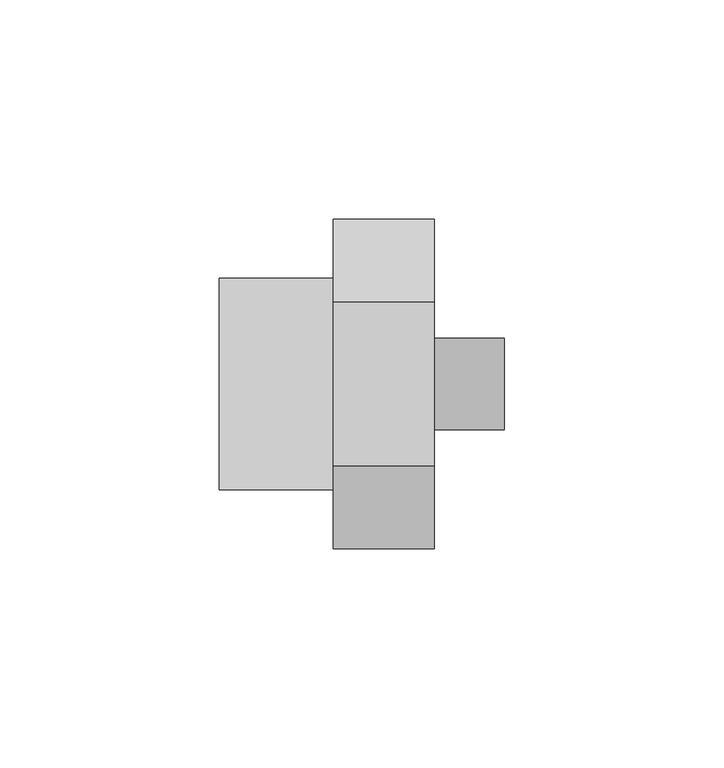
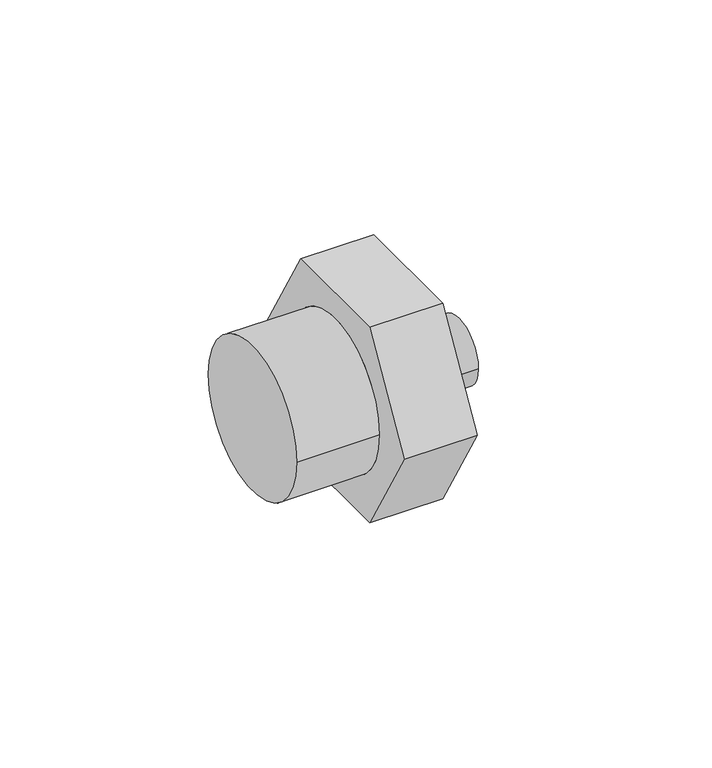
"""IFC4 building model written with IfcOpenShell, lengths in millimetres: pipe fitting geometry, 01011197 : Mamelons doubles réduction."""

from ifc_helpers import new_model, si_unit, frame, origin, place, context, project, spatial, circle_curve, source, transform, mapped, element, save
from ifc_brep_helpers import plane_surface, cylinder_surface, advanced_brep


def pipe_fitting_93043155(model_context):
    return source(origin(), model_context, "Body", "AdvancedBrep", [
        advanced_brep(
        [(49.0, -18.7638837, 32.5), (49.0, -37.5277675, 0.0), (49.0, -18.7638837, -32.5), (49.0, 18.7638837, -32.5), (49.0, 37.5277675, 0.0), (49.0, 18.7638837, 32.5), (49.0, -10.4775, 0.0), (49.0, 10.4775, 0.0), (26.0, -18.7638837, 32.5), (26.0, 18.7638837, 32.5), (26.0, 37.5277675, 0.0), (26.0, 18.7638837, -32.5), (26.0, -18.7638837, -32.5), (26.0, -37.5277675, 0.0), (26.0, 24.13, 0.0), (26.0, -24.13, 0.0), (65.0, -10.4775, 0.0), (65.0, 10.4775, 0.0), (0.0, 24.13, 0.0), (0.0, -24.13, 0.0)],
        [
            (0, 1),
            (1, 2),
            (2, 3),
            (3, 4),
            (4, 5),
            (5, 0),
            (6, 7, circle_curve(frame((49.0, 0.0, 0.0), z_axis=(-1.0, 0.0, 0.0), x_axis=(0.0, 1.0, 0.0)), 10.4775)),
            (7, 6, circle_curve(frame((49.0, 0.0, 0.0), z_axis=(-1.0, 0.0, 0.0), x_axis=(0.0, 1.0, 0.0)), 10.4775)),
            (8, 9),
            (9, 10),
            (10, 11),
            (11, 12),
            (12, 13),
            (13, 8),
            (14, 15, circle_curve(frame((26.0, 0.0, 0.0), z_axis=(1.0, 0.0, 0.0), x_axis=(0.0, -1.0, 0.0)), 24.13)),
            (15, 14, circle_curve(frame((26.0, 0.0, 0.0), z_axis=(1.0, 0.0, 0.0), x_axis=(0.0, -1.0, 0.0)), 24.13)),
            (0, 8),
            (13, 1),
            (12, 2),
            (11, 3),
            (10, 4),
            (9, 5),
            (16, 17, circle_curve(frame((65.0, 0.0, 0.0), z_axis=(1.0, 0.0, 0.0), x_axis=(0.0, 1.0, 0.0)), 10.4775)),
            (17, 16, circle_curve(frame((65.0, 0.0, 0.0), z_axis=(1.0, 0.0, 0.0), x_axis=(0.0, 1.0, 0.0)), 10.4775)),
            (17, 7),
            (6, 16),
            (18, 19, circle_curve(frame((0.0, 0.0, 0.0), z_axis=(-1.0, 0.0, 0.0), x_axis=(0.0, -1.0, 0.0)), 24.13)),
            (19, 18, circle_curve(frame((0.0, 0.0, 0.0), z_axis=(-1.0, 0.0, 0.0), x_axis=(0.0, -1.0, 0.0)), 24.13)),
            (19, 15),
            (14, 18),
        ],
        [
            plane_surface(frame((49.0, -18.7638837, 32.5), z_axis=(1.0000000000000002, 0.0, 0.0), x_axis=(0.0, -0.5000000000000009, -0.8660254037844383))),
            plane_surface(frame((26.0, -18.7638837, 32.5), z_axis=(-1.0000000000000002, 0.0, 0.0), x_axis=(0.0, 0.5000000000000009, 0.8660254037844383))),
            plane_surface(frame((49.0, -18.7638837, 32.5), z_axis=(0.0, -0.8660254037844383, 0.5000000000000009), x_axis=(-1.0, 0.0, 0.0))),
            plane_surface(frame((49.0, -37.5277675, 0.0), z_axis=(0.0, -0.8660254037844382, -0.5000000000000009), x_axis=(-1.0, 0.0, 0.0))),
            plane_surface(frame((49.0, -18.7638837, -32.5), z_axis=(0.0, 0.0, -1.0), x_axis=(-1.0, 0.0, 0.0))),
            plane_surface(frame((49.0, 18.7638837, -32.5), z_axis=(0.0, 0.8660254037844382, -0.5000000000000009), x_axis=(-1.0, 0.0, 0.0))),
            plane_surface(frame((49.0, 37.5277675, 0.0), z_axis=(0.0, 0.8660254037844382, 0.500000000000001), x_axis=(-1.0, 0.0, 0.0))),
            plane_surface(frame((49.0, 18.7638837, 32.5), z_axis=(0.0, 0.0, 1.0), x_axis=(-1.0, 0.0, 0.0))),
            plane_surface(frame((65.0, 0.0, 0.0), z_axis=(1.0, 0.0, 0.0), x_axis=(0.0, 0.0, 1.0))),
            cylinder_surface(frame((49.0, 0.0, 0.0), z_axis=(-1.0, 0.0, 0.0), x_axis=(0.0, 1.0, 0.0)), 10.4775),
            plane_surface(frame((0.0, 0.0, 0.0), z_axis=(-1.0, 0.0, 0.0), x_axis=(0.0, 0.0, 1.0))),
            cylinder_surface(frame((26.0, 0.0, 0.0), z_axis=(1.0, 0.0, 0.0), x_axis=(0.0, -1.0, 0.0)), 24.13),
        ],
        [
            (0, [[1, 2, 3, 4, 5, 6], [7, 8]]),
            (1, [[9, 10, 11, 12, 13, 14], [15, 16]]),
            (2, [[-1, 17, -14, 18]]),
            (3, [[-2, -18, -13, 19]]),
            (4, [[-3, -19, -12, 20]]),
            (5, [[-4, -20, -11, 21]]),
            (6, [[-5, -21, -10, 22]]),
            (7, [[-6, -22, -9, -17]]),
            (8, [[23, 24]]),
            (9, [[-24, 25, -7, 26]]),
            (9, [[-23, -26, -8, -25]]),
            (10, [[27, 28]]),
            (11, [[-28, 29, -15, 30]]),
            (11, [[-27, -30, -16, -29]]),
        ],
    ),
    ])


if __name__ == "__main__":
    model = new_model("IFC4")
    model_context = context("Model", 3, world=origin())
    ifc_project = project(units=[si_unit("LENGTHUNIT", "METRE", prefix="MILLI")], contexts=[model_context])
    site = spatial("IfcSite", under=ifc_project)
    building = spatial("IfcBuilding", under=site)
    placement = place(None, origin())
    pipe_fitting_shape = pipe_fitting_93043155(model_context)
    element("IfcPipeFitting", 1, ObjectType="01011197 : Mamelons doubles réduction", at=placement, inside=building, context=model_context, shape_type="MappedRepresentation", body=[
        mapped(pipe_fitting_shape, transform((0.0, 0.0, 0.0), x_axis=(1.0, 0.0, 0.0), y_axis=(0.0, 1.0, 0.0), z_axis=(0.0, 0.0, 1.0))),
    ])
    save(model, "model.ifc")
